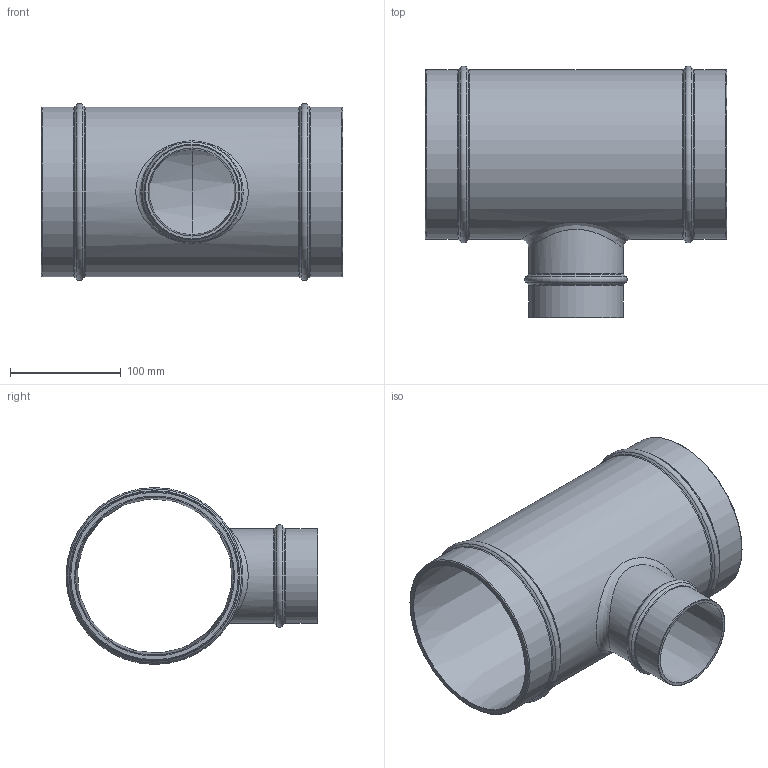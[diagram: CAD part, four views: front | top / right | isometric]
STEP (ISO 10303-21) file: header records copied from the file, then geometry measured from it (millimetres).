
FILE_DESCRIPTION(/* description */ (''),/* implementation_level */ '2;1');
FILE_NAME(/* name */ '9707_stp.stp',/* time_stamp */ '2025-06-20T11:36:41+08:00',/* author */ (''),/* organization */ (''),/* preprocessor_version */ 'ST-DEVELOPER v14',/* originating_system */ 'SIEMENS PLM Software NX 8.0',/* authorisation */ '');
FILE_SCHEMA (('AP203_CONFIGURATION_CONTROLLED_3D_DESIGN_OF_MECHANICAL_PARTS_AND_ASSEMBLIES_MIM_LF { 1 0 10303 403 2 1 2}'));
Length unit declared in the file: millimetre
Products named in the file (1): Admi0BECFFFE4xsc
Bounding box: 272.05 x 227.23 x 159.58 mm (x, y, z)
Volume: 846972.7 mm3; surface area: 290325.7 mm2
Topology: 1 solids, 1 shells, 32 faces, 69 edges, 37 vertices
Faces by surface type: cone 13, torus 12, cylinder 5, plane 1, bspline 1
Full cylindrical faces by diameter (mm): 85.4 x2, 153 x3
Entity records: 1536 total; most frequent: CARTESIAN_POINT 898, DIRECTION 120, ORIENTED_EDGE 68, FACE_BOUND 65, EDGE_LOOP 65, AXIS2_PLACEMENT_3D 60, EDGE_CURVE 34, VERTEX_POINT 33
